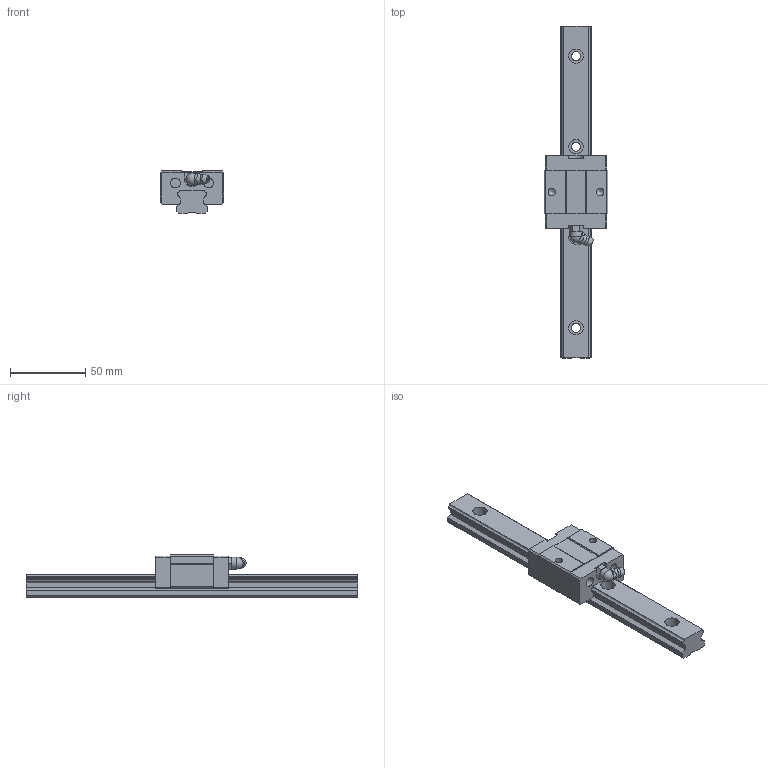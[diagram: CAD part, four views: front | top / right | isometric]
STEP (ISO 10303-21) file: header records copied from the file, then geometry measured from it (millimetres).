
FILE_DESCRIPTION(/* description */ (''),/* implementation_level */ '2;1');
FILE_NAME(/* name */ 'MSB20TS',/* time_stamp */ '2004-05-24T10:20:24+08:00',/* author */ (''),/* organization */ (''),/* preprocessor_version */ 'ST-DEVELOPER v8',/* originating_system */ '',/* authorisation */ '');
FILE_SCHEMA (('CONFIG_CONTROL_DESIGN'));
Length unit declared in the file: millimetre
Products named in the file (1): zirc812C001z
Bounding box: 42 x 220 x 28 mm (x, y, z)
Volume: 88075.5 mm3; surface area: 28231.9 mm2
Topology: 3 solids, 3 shells, 157 faces, 423 edges, 278 vertices
Faces by surface type: plane 115, cylinder 29, torus 7, cone 3, sphere 2, bspline 1
Full cylindrical faces by diameter (mm): 5 x2, 6 x4, 6.5 x6, 8 x1, 9.5 x4
Entity records: 4873 total; most frequent: CARTESIAN_POINT 946, ORIENTED_EDGE 778, DIRECTION 772, EDGE_CURVE 389, LINE 284, VECTOR 284, VERTEX_POINT 270, AXIS2_PLACEMENT_3D 244
